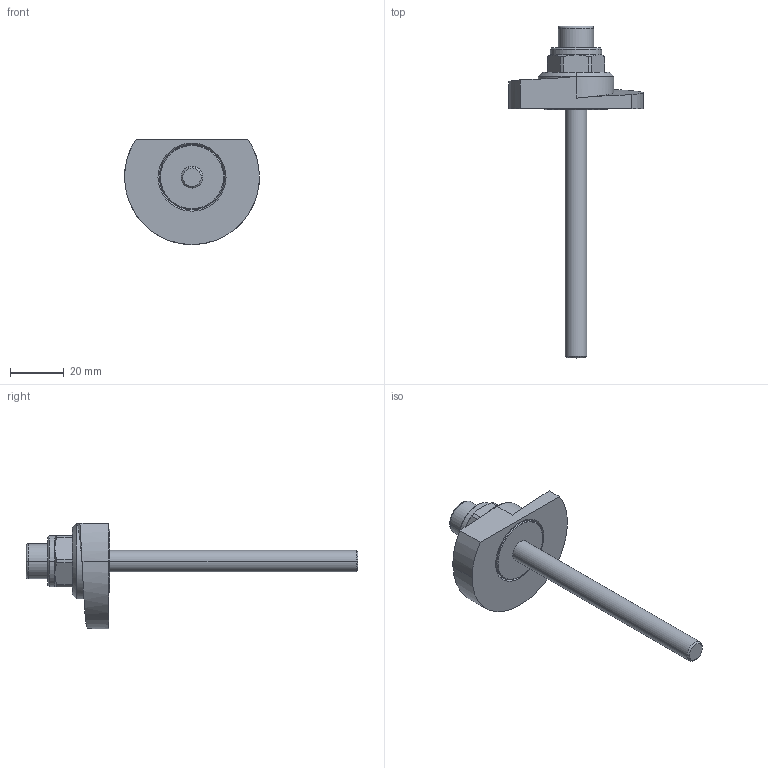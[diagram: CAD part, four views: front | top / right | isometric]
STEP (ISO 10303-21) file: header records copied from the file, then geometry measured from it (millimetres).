
FILE_DESCRIPTION (( 'STEP AP214' ), '1' );
FILE_NAME ('918.1-50-SKS-R-92.step', '2024-05-15T13:03:25', ( '' ), ( '' ), 'SwSTEP 2.0', 'SolidWorks 2022', '' );
FILE_SCHEMA (( 'AUTOMOTIVE_DESIGN' ));
Length unit declared in the file: millimetre
Products named in the file (1): 918.1-50-SKS-R-92
Bounding box: 50 x 123 x 39 mm (x, y, z)
Volume: 24716.2 mm3; surface area: 10640.4 mm2
Topology: 1 solids, 2 shells, 77 faces, 175 edges, 110 vertices
Faces by surface type: cylinder 25, plane 25, cone 22, bspline 3, torus 2
Entity records: 2547 total; most frequent: CARTESIAN_POINT 772, DIRECTION 379, ORIENTED_EDGE 350, EDGE_CURVE 175, AXIS2_PLACEMENT_3D 152, VERTEX_POINT 110, EDGE_LOOP 87, FACE_OUTER_BOUND 77
